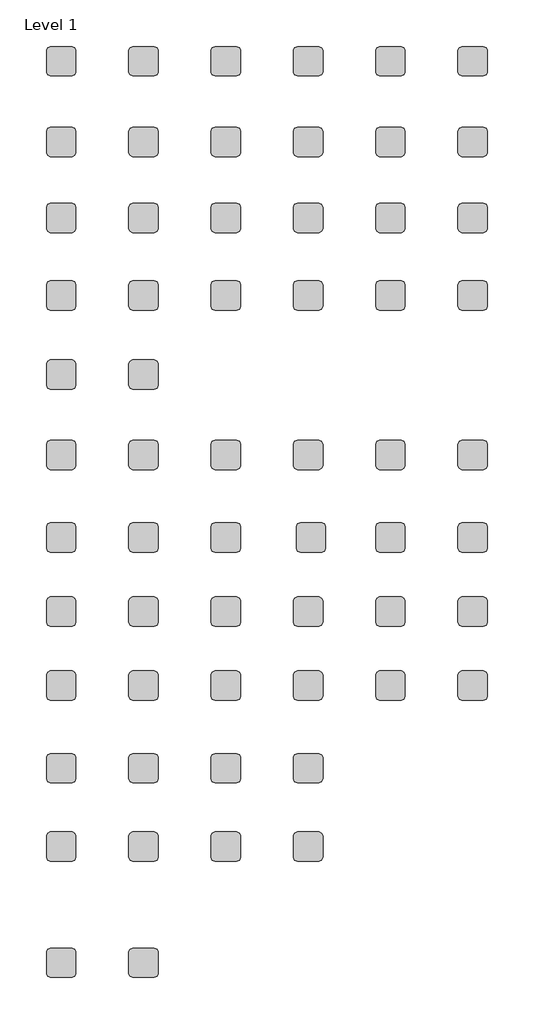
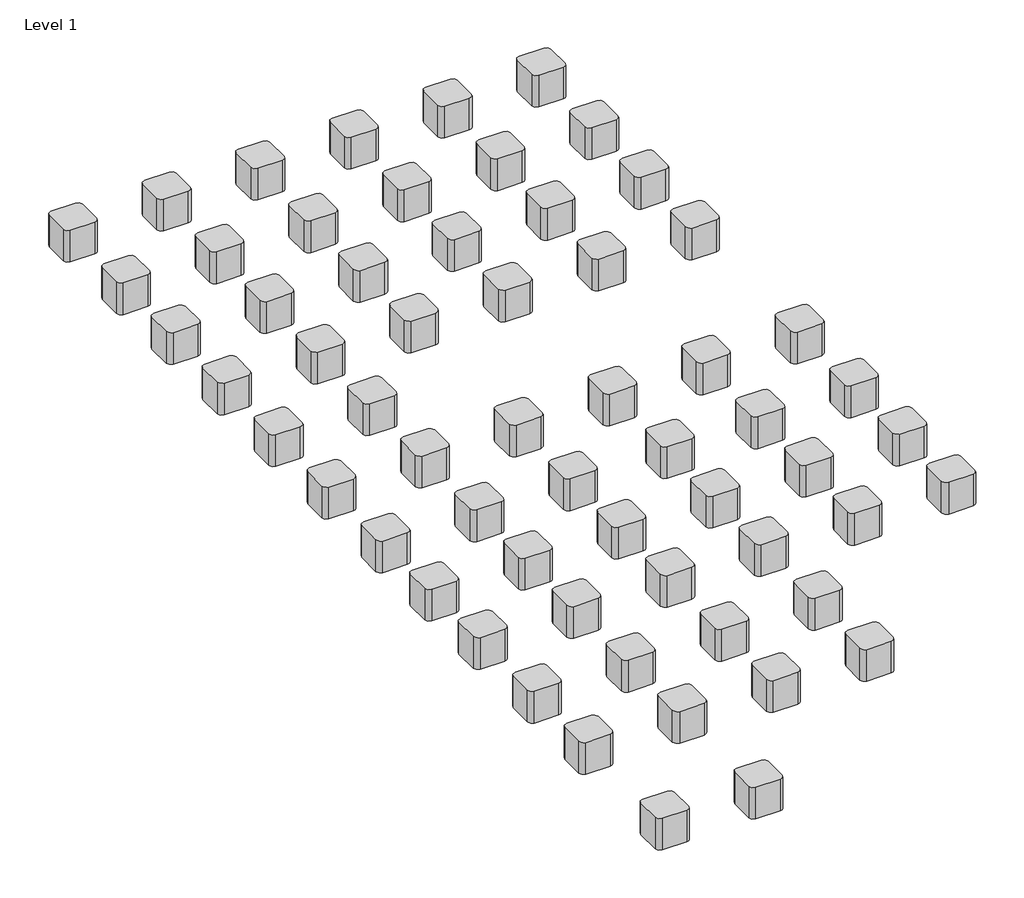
# One storey: 60 proxies.
"""IFC4 building model written with IfcOpenShell, lengths in millimetres."""

from ifc_helpers import new_model, si_unit, origin, place, context, project, spatial, transform, mapped, element, save
from components import material_cube_material_cube_d003602f

model = new_model("IFC4")

# Units and contexts
model_context = context("Model", 3, world=origin())
ifc_project = project(units=[si_unit("LENGTHUNIT", "METRE", prefix="MILLI")], contexts=[model_context])

# Site, building, storey
site = spatial("IfcSite", under=ifc_project)
building = spatial("IfcBuilding", under=site)
storey = spatial("IfcBuildingStorey", under=building, Name="Level 1", Elevation=0.0)

# Proxies
placement = place(None, origin())
material_cube_material_cube_shape = material_cube_material_cube_d003602f(model_context)
element("IfcBuildingElementProxy", 1, Name="Material Cube : Material Cube", ObjectType="Material Cube : Material Cube", at=placement, inside=storey, context=model_context, shape_type="MappedRepresentation", body=[
    mapped(material_cube_material_cube_shape, transform((-13627.1706411, 7005.4918403, 0.0), x_axis=(1.0, 0.0, 0.0), y_axis=(0.0, 1.0, 0.0), z_axis=(0.0, 0.0, 1.0))),
])
element("IfcBuildingElementProxy", 2, Name="Material Cube : Material Cube", ObjectType="Material Cube : Material Cube", at=placement, inside=storey, context=model_context, shape_type="MappedRepresentation", body=[
    mapped(material_cube_material_cube_shape, transform((-12558.7416718, 7005.4918403, 0.0), x_axis=(1.0, 0.0, 0.0), y_axis=(0.0, 1.0, 0.0), z_axis=(0.0, 0.0, 1.0))),
])
element("IfcBuildingElementProxy", 3, Name="Material Cube : Material Cube", ObjectType="Material Cube : Material Cube", at=placement, inside=storey, context=model_context, shape_type="MappedRepresentation", body=[
    mapped(material_cube_material_cube_shape, transform((-11490.3127025, 7005.4918403, 0.0), x_axis=(1.0, 0.0, 0.0), y_axis=(0.0, 1.0, 0.0), z_axis=(0.0, 0.0, 1.0))),
])
element("IfcBuildingElementProxy", 4, Name="Material Cube : Material Cube", ObjectType="Material Cube : Material Cube", at=placement, inside=storey, context=model_context, shape_type="MappedRepresentation", body=[
    mapped(material_cube_material_cube_shape, transform((-10421.8837331, 7005.4918403, 0.0), x_axis=(1.0, 0.0, 0.0), y_axis=(0.0, 1.0, 0.0), z_axis=(0.0, 0.0, 1.0))),
])
element("IfcBuildingElementProxy", 5, Name="Material Cube : Material Cube", ObjectType="Material Cube : Material Cube", at=placement, inside=storey, context=model_context, shape_type="MappedRepresentation", body=[
    mapped(material_cube_material_cube_shape, transform((-9353.4547638, 7005.4918403, 0.0), x_axis=(1.0, 0.0, 0.0), y_axis=(0.0, 1.0, 0.0), z_axis=(0.0, 0.0, 1.0))),
])
element("IfcBuildingElementProxy", 6, Name="Material Cube : Material Cube", ObjectType="Material Cube : Material Cube", at=placement, inside=storey, context=model_context, shape_type="MappedRepresentation", body=[
    mapped(material_cube_material_cube_shape, transform((-8285.0257944, 7005.4918403, 0.0), x_axis=(1.0, 0.0, 0.0), y_axis=(0.0, 1.0, 0.0), z_axis=(0.0, 0.0, 1.0))),
])
element("IfcBuildingElementProxy", 7, Name="Material Cube : Material Cube", ObjectType="Material Cube : Material Cube", at=placement, inside=storey, context=model_context, shape_type="MappedRepresentation", body=[
    mapped(material_cube_material_cube_shape, transform((-13627.1706411, 4973.4918403, 0.0), x_axis=(1.0, 0.0, 0.0), y_axis=(0.0, 1.0, 0.0), z_axis=(0.0, 0.0, 1.0))),
])
element("IfcBuildingElementProxy", 8, Name="Material Cube : Material Cube", ObjectType="Material Cube : Material Cube", at=placement, inside=storey, context=model_context, shape_type="MappedRepresentation", body=[
    mapped(material_cube_material_cube_shape, transform((-12558.7416718, 4973.4918403, 0.0), x_axis=(1.0, 0.0, 0.0), y_axis=(0.0, 1.0, 0.0), z_axis=(0.0, 0.0, 1.0))),
])
element("IfcBuildingElementProxy", 9, Name="Material Cube : Material Cube", ObjectType="Material Cube : Material Cube", at=placement, inside=storey, context=model_context, shape_type="MappedRepresentation", body=[
    mapped(material_cube_material_cube_shape, transform((-11490.3127025, 4973.4918403, 0.0), x_axis=(1.0, 0.0, 0.0), y_axis=(0.0, 1.0, 0.0), z_axis=(0.0, 0.0, 1.0))),
])
element("IfcBuildingElementProxy", 10, Name="Material Cube : Material Cube", ObjectType="Material Cube : Material Cube", at=placement, inside=storey, context=model_context, shape_type="MappedRepresentation", body=[
    mapped(material_cube_material_cube_shape, transform((-10421.8837331, 4973.4918403, 0.0), x_axis=(1.0, 0.0, 0.0), y_axis=(0.0, 1.0, 0.0), z_axis=(0.0, 0.0, 1.0))),
])
element("IfcBuildingElementProxy", 11, Name="Material Cube : Material Cube", ObjectType="Material Cube : Material Cube", at=placement, inside=storey, context=model_context, shape_type="MappedRepresentation", body=[
    mapped(material_cube_material_cube_shape, transform((-9353.4547638, 4973.4918403, 0.0), x_axis=(1.0, 0.0, 0.0), y_axis=(0.0, 1.0, 0.0), z_axis=(0.0, 0.0, 1.0))),
])
element("IfcBuildingElementProxy", 12, Name="Material Cube : Material Cube", ObjectType="Material Cube : Material Cube", at=placement, inside=storey, context=model_context, shape_type="MappedRepresentation", body=[
    mapped(material_cube_material_cube_shape, transform((-8285.0257944, 4973.4918403, 0.0), x_axis=(1.0, 0.0, 0.0), y_axis=(0.0, 1.0, 0.0), z_axis=(0.0, 0.0, 1.0))),
])
element("IfcBuildingElementProxy", 13, Name="Material Cube : Material Cube", ObjectType="Material Cube : Material Cube", at=placement, inside=storey, context=model_context, shape_type="MappedRepresentation", body=[
    mapped(material_cube_material_cube_shape, transform((-13627.1706411, 1900.0918403, 0.0), x_axis=(1.0, 0.0, 0.0), y_axis=(0.0, 1.0, 0.0), z_axis=(0.0, 0.0, 1.0))),
])
element("IfcBuildingElementProxy", 14, Name="Material Cube : Material Cube", ObjectType="Material Cube : Material Cube", at=placement, inside=storey, context=model_context, shape_type="MappedRepresentation", body=[
    mapped(material_cube_material_cube_shape, transform((-12558.7416718, 1900.0918403, 0.0), x_axis=(1.0, 0.0, 0.0), y_axis=(0.0, 1.0, 0.0), z_axis=(0.0, 0.0, 1.0))),
])
element("IfcBuildingElementProxy", 15, Name="Material Cube : Material Cube", ObjectType="Material Cube : Material Cube", at=placement, inside=storey, context=model_context, shape_type="MappedRepresentation", body=[
    mapped(material_cube_material_cube_shape, transform((-11490.3127025, 1900.0918403, 0.0), x_axis=(1.0, 0.0, 0.0), y_axis=(0.0, 1.0, 0.0), z_axis=(0.0, 0.0, 1.0))),
])
element("IfcBuildingElementProxy", 16, Name="Material Cube : Material Cube", ObjectType="Material Cube : Material Cube", at=placement, inside=storey, context=model_context, shape_type="MappedRepresentation", body=[
    mapped(material_cube_material_cube_shape, transform((-10421.8837331, 1900.0918403, 0.0), x_axis=(1.0, 0.0, 0.0), y_axis=(0.0, 1.0, 0.0), z_axis=(0.0, 0.0, 1.0))),
])
element("IfcBuildingElementProxy", 17, Name="Material Cube : Material Cube", ObjectType="Material Cube : Material Cube", at=placement, inside=storey, context=model_context, shape_type="MappedRepresentation", body=[
    mapped(material_cube_material_cube_shape, transform((-9353.4547638, 1900.0918403, 0.0), x_axis=(1.0, 0.0, 0.0), y_axis=(0.0, 1.0, 0.0), z_axis=(0.0, 0.0, 1.0))),
])
element("IfcBuildingElementProxy", 18, Name="Material Cube : Material Cube", ObjectType="Material Cube : Material Cube", at=placement, inside=storey, context=model_context, shape_type="MappedRepresentation", body=[
    mapped(material_cube_material_cube_shape, transform((-8285.0257944, 1900.0918403, 0.0), x_axis=(1.0, 0.0, 0.0), y_axis=(0.0, 1.0, 0.0), z_axis=(0.0, 0.0, 1.0))),
])
element("IfcBuildingElementProxy", 19, Name="Material Cube : Material Cube", ObjectType="Material Cube : Material Cube", at=placement, inside=storey, context=model_context, shape_type="MappedRepresentation", body=[
    mapped(material_cube_material_cube_shape, transform((-13627.1706411, -131.9081597, 0.0), x_axis=(1.0, 0.0, 0.0), y_axis=(0.0, 1.0, 0.0), z_axis=(0.0, 0.0, 1.0))),
])
element("IfcBuildingElementProxy", 20, Name="Material Cube : Material Cube", ObjectType="Material Cube : Material Cube", at=placement, inside=storey, context=model_context, shape_type="MappedRepresentation", body=[
    mapped(material_cube_material_cube_shape, transform((-11490.3127025, -131.9081597, 0.0), x_axis=(1.0, 0.0, 0.0), y_axis=(0.0, 1.0, 0.0), z_axis=(0.0, 0.0, 1.0))),
])
element("IfcBuildingElementProxy", 21, Name="Material Cube : Material Cube", ObjectType="Material Cube : Material Cube", at=placement, inside=storey, context=model_context, shape_type="MappedRepresentation", body=[
    mapped(material_cube_material_cube_shape, transform((-12558.7416718, -131.9081597, 0.0), x_axis=(1.0, 0.0, 0.0), y_axis=(0.0, 1.0, 0.0), z_axis=(0.0, 0.0, 1.0))),
])
element("IfcBuildingElementProxy", 22, Name="Material Cube : Material Cube", ObjectType="Material Cube : Material Cube", at=placement, inside=storey, context=model_context, shape_type="MappedRepresentation", body=[
    mapped(material_cube_material_cube_shape, transform((-10421.8837331, -131.9081597, 0.0), x_axis=(1.0, 0.0, 0.0), y_axis=(0.0, 1.0, 0.0), z_axis=(0.0, 0.0, 1.0))),
])
element("IfcBuildingElementProxy", 23, Name="Material Cube : Material Cube", ObjectType="Material Cube : Material Cube", at=placement, inside=storey, context=model_context, shape_type="MappedRepresentation", body=[
    mapped(material_cube_material_cube_shape, transform((-9353.4547638, -131.9081597, 0.0), x_axis=(1.0, 0.0, 0.0), y_axis=(0.0, 1.0, 0.0), z_axis=(0.0, 0.0, 1.0))),
])
element("IfcBuildingElementProxy", 24, Name="Material Cube : Material Cube", ObjectType="Material Cube : Material Cube", at=placement, inside=storey, context=model_context, shape_type="MappedRepresentation", body=[
    mapped(material_cube_material_cube_shape, transform((-8285.0257944, -131.9081597, 0.0), x_axis=(1.0, 0.0, 0.0), y_axis=(0.0, 1.0, 0.0), z_axis=(0.0, 0.0, 1.0))),
])
element("IfcBuildingElementProxy", 25, Name="Material Cube : Material Cube", ObjectType="Material Cube : Material Cube", at=placement, inside=storey, context=model_context, shape_type="MappedRepresentation", body=[
    mapped(material_cube_material_cube_shape, transform((-13627.1706411, 2941.4918403, 0.0), x_axis=(1.0, 0.0, 0.0), y_axis=(0.0, 1.0, 0.0), z_axis=(0.0, 0.0, 1.0))),
])
element("IfcBuildingElementProxy", 26, Name="Material Cube : Material Cube", ObjectType="Material Cube : Material Cube", at=placement, inside=storey, context=model_context, shape_type="MappedRepresentation", body=[
    mapped(material_cube_material_cube_shape, transform((-12558.7416718, 2941.4918403, 0.0), x_axis=(1.0, 0.0, 0.0), y_axis=(0.0, 1.0, 0.0), z_axis=(0.0, 0.0, 1.0))),
])
element("IfcBuildingElementProxy", 27, Name="Material Cube : Material Cube", ObjectType="Material Cube : Material Cube", at=placement, inside=storey, context=model_context, shape_type="MappedRepresentation", body=[
    mapped(material_cube_material_cube_shape, transform((-13627.1706411, -2163.9081597, 0.0), x_axis=(1.0, 0.0, 0.0), y_axis=(0.0, 1.0, 0.0), z_axis=(0.0, 0.0, 1.0))),
])
element("IfcBuildingElementProxy", 28, Name="Material Cube : Material Cube", ObjectType="Material Cube : Material Cube", at=placement, inside=storey, context=model_context, shape_type="MappedRepresentation", body=[
    mapped(material_cube_material_cube_shape, transform((-12558.7416718, -2163.9081597, 0.0), x_axis=(1.0, 0.0, 0.0), y_axis=(0.0, 1.0, 0.0), z_axis=(0.0, 0.0, 1.0))),
])
element("IfcBuildingElementProxy", 29, Name="Material Cube : Material Cube", ObjectType="Material Cube : Material Cube", at=placement, inside=storey, context=model_context, shape_type="MappedRepresentation", body=[
    mapped(material_cube_material_cube_shape, transform((-11490.3127025, -2163.9081597, 0.0), x_axis=(1.0, 0.0, 0.0), y_axis=(0.0, 1.0, 0.0), z_axis=(0.0, 0.0, 1.0))),
])
element("IfcBuildingElementProxy", 30, Name="Material Cube : Material Cube", ObjectType="Material Cube : Material Cube", at=placement, inside=storey, context=model_context, shape_type="MappedRepresentation", body=[
    mapped(material_cube_material_cube_shape, transform((-10421.8837331, -2163.9081597, 0.0), x_axis=(1.0, 0.0, 0.0), y_axis=(0.0, 1.0, 0.0), z_axis=(0.0, 0.0, 1.0))),
])
element("IfcBuildingElementProxy", 31, Name="Material Cube : Material Cube", ObjectType="Material Cube : Material Cube", at=placement, inside=storey, context=model_context, shape_type="MappedRepresentation", body=[
    mapped(material_cube_material_cube_shape, transform((-13627.1706411, -3179.9081597, 0.0), x_axis=(1.0, 0.0, 0.0), y_axis=(0.0, 1.0, 0.0), z_axis=(0.0, 0.0, 1.0))),
])
element("IfcBuildingElementProxy", 32, Name="Material Cube : Material Cube", ObjectType="Material Cube : Material Cube", at=placement, inside=storey, context=model_context, shape_type="MappedRepresentation", body=[
    mapped(material_cube_material_cube_shape, transform((-12558.7416718, -3179.9081597, 0.0), x_axis=(1.0, 0.0, 0.0), y_axis=(0.0, 1.0, 0.0), z_axis=(0.0, 0.0, 1.0))),
])
element("IfcBuildingElementProxy", 33, Name="Material Cube : Material Cube", ObjectType="Material Cube : Material Cube", at=placement, inside=storey, context=model_context, shape_type="MappedRepresentation", body=[
    mapped(material_cube_material_cube_shape, transform((-11490.3127025, -3179.9081597, 0.0), x_axis=(1.0, 0.0, 0.0), y_axis=(0.0, 1.0, 0.0), z_axis=(0.0, 0.0, 1.0))),
])
element("IfcBuildingElementProxy", 34, Name="Material Cube : Material Cube", ObjectType="Material Cube : Material Cube", at=placement, inside=storey, context=model_context, shape_type="MappedRepresentation", body=[
    mapped(material_cube_material_cube_shape, transform((-10421.8837331, -3179.9081597, 0.0), x_axis=(1.0, 0.0, 0.0), y_axis=(0.0, 1.0, 0.0), z_axis=(0.0, 0.0, 1.0))),
])
element("IfcBuildingElementProxy", 35, Name="Material Cube : Material Cube", ObjectType="Material Cube : Material Cube", at=placement, inside=storey, context=model_context, shape_type="MappedRepresentation", body=[
    mapped(material_cube_material_cube_shape, transform((-13627.1706411, 828.3582102, 0.0), x_axis=(1.0, 0.0, 0.0), y_axis=(0.0, 1.0, 0.0), z_axis=(0.0, 0.0, 1.0))),
])
element("IfcBuildingElementProxy", 36, Name="Material Cube : Material Cube", ObjectType="Material Cube : Material Cube", at=placement, inside=storey, context=model_context, shape_type="MappedRepresentation", body=[
    mapped(material_cube_material_cube_shape, transform((-12558.7416718, 828.3582102, 0.0), x_axis=(1.0, 0.0, 0.0), y_axis=(0.0, 1.0, 0.0), z_axis=(0.0, 0.0, 1.0))),
])
element("IfcBuildingElementProxy", 37, Name="Material Cube : Material Cube", ObjectType="Material Cube : Material Cube", at=placement, inside=storey, context=model_context, shape_type="MappedRepresentation", body=[
    mapped(material_cube_material_cube_shape, transform((-11490.3127025, 828.3582102, 0.0), x_axis=(1.0, 0.0, 0.0), y_axis=(0.0, 1.0, 0.0), z_axis=(0.0, 0.0, 1.0))),
])
element("IfcBuildingElementProxy", 38, Name="Material Cube : Material Cube", ObjectType="Material Cube : Material Cube", at=placement, inside=storey, context=model_context, shape_type="MappedRepresentation", body=[
    mapped(material_cube_material_cube_shape, transform((-10384.1043899, 828.3582102, 0.0), x_axis=(1.0, 0.0, 0.0), y_axis=(0.0, 1.0, 0.0), z_axis=(0.0, 0.0, 1.0))),
])
element("IfcBuildingElementProxy", 39, Name="Material Cube : Material Cube", ObjectType="Material Cube : Material Cube", at=placement, inside=storey, context=model_context, shape_type="MappedRepresentation", body=[
    mapped(material_cube_material_cube_shape, transform((-9353.4547638, 828.3582102, 0.0), x_axis=(1.0, 0.0, 0.0), y_axis=(0.0, 1.0, 0.0), z_axis=(0.0, 0.0, 1.0))),
])
element("IfcBuildingElementProxy", 40, Name="Material Cube : Material Cube", ObjectType="Material Cube : Material Cube", at=placement, inside=storey, context=model_context, shape_type="MappedRepresentation", body=[
    mapped(material_cube_material_cube_shape, transform((-13627.1706411, -1091.8963945, 0.0), x_axis=(1.0, 0.0, 0.0), y_axis=(0.0, 1.0, 0.0), z_axis=(0.0, 0.0, 1.0))),
])
element("IfcBuildingElementProxy", 41, Name="Material Cube : Material Cube", ObjectType="Material Cube : Material Cube", at=placement, inside=storey, context=model_context, shape_type="MappedRepresentation", body=[
    mapped(material_cube_material_cube_shape, transform((-8285.0257944, 828.3582102, 0.0), x_axis=(1.0, 0.0, 0.0), y_axis=(0.0, 1.0, 0.0), z_axis=(0.0, 0.0, 1.0))),
])
element("IfcBuildingElementProxy", 42, Name="Material Cube : Material Cube", ObjectType="Material Cube : Material Cube", at=placement, inside=storey, context=model_context, shape_type="MappedRepresentation", body=[
    mapped(material_cube_material_cube_shape, transform((-12558.7416718, -1091.8963945, 0.0), x_axis=(1.0, 0.0, 0.0), y_axis=(0.0, 1.0, 0.0), z_axis=(0.0, 0.0, 1.0))),
])
element("IfcBuildingElementProxy", 43, Name="Material Cube : Material Cube", ObjectType="Material Cube : Material Cube", at=placement, inside=storey, context=model_context, shape_type="MappedRepresentation", body=[
    mapped(material_cube_material_cube_shape, transform((-11490.3127025, -1091.8963945, 0.0), x_axis=(1.0, 0.0, 0.0), y_axis=(0.0, 1.0, 0.0), z_axis=(0.0, 0.0, 1.0))),
])
element("IfcBuildingElementProxy", 44, Name="Material Cube : Material Cube", ObjectType="Material Cube : Material Cube", at=placement, inside=storey, context=model_context, shape_type="MappedRepresentation", body=[
    mapped(material_cube_material_cube_shape, transform((-10421.8837331, -1091.8963945, 0.0), x_axis=(1.0, 0.0, 0.0), y_axis=(0.0, 1.0, 0.0), z_axis=(0.0, 0.0, 1.0))),
])
element("IfcBuildingElementProxy", 45, Name="Material Cube : Material Cube", ObjectType="Material Cube : Material Cube", at=placement, inside=storey, context=model_context, shape_type="MappedRepresentation", body=[
    mapped(material_cube_material_cube_shape, transform((-9353.4547638, -1091.8963945, 0.0), x_axis=(1.0, 0.0, 0.0), y_axis=(0.0, 1.0, 0.0), z_axis=(0.0, 0.0, 1.0))),
])
element("IfcBuildingElementProxy", 46, Name="Material Cube : Material Cube", ObjectType="Material Cube : Material Cube", at=placement, inside=storey, context=model_context, shape_type="MappedRepresentation", body=[
    mapped(material_cube_material_cube_shape, transform((-8285.0257944, -1091.8963945, 0.0), x_axis=(1.0, 0.0, 0.0), y_axis=(0.0, 1.0, 0.0), z_axis=(0.0, 0.0, 1.0))),
])
element("IfcBuildingElementProxy", 47, Name="Material Cube : Material Cube", ObjectType="Material Cube : Material Cube", at=placement, inside=storey, context=model_context, shape_type="MappedRepresentation", body=[
    mapped(material_cube_material_cube_shape, transform((-13627.1706411, 5959.5844979, 0.0), x_axis=(1.0, 0.0, 0.0), y_axis=(0.0, 1.0, 0.0), z_axis=(0.0, 0.0, 1.0))),
])
element("IfcBuildingElementProxy", 48, Name="Material Cube : Material Cube", ObjectType="Material Cube : Material Cube", at=placement, inside=storey, context=model_context, shape_type="MappedRepresentation", body=[
    mapped(material_cube_material_cube_shape, transform((-12558.7416718, 5959.5844979, 0.0), x_axis=(1.0, 0.0, 0.0), y_axis=(0.0, 1.0, 0.0), z_axis=(0.0, 0.0, 1.0))),
])
element("IfcBuildingElementProxy", 49, Name="Material Cube : Material Cube", ObjectType="Material Cube : Material Cube", at=placement, inside=storey, context=model_context, shape_type="MappedRepresentation", body=[
    mapped(material_cube_material_cube_shape, transform((-11490.3127025, 5959.5844979, 0.0), x_axis=(1.0, 0.0, 0.0), y_axis=(0.0, 1.0, 0.0), z_axis=(0.0, 0.0, 1.0))),
])
element("IfcBuildingElementProxy", 50, Name="Material Cube : Material Cube", ObjectType="Material Cube : Material Cube", at=placement, inside=storey, context=model_context, shape_type="MappedRepresentation", body=[
    mapped(material_cube_material_cube_shape, transform((-10421.8837331, 5959.5844979, 0.0), x_axis=(1.0, 0.0, 0.0), y_axis=(0.0, 1.0, 0.0), z_axis=(0.0, 0.0, 1.0))),
])
element("IfcBuildingElementProxy", 51, Name="Material Cube : Material Cube", ObjectType="Material Cube : Material Cube", at=placement, inside=storey, context=model_context, shape_type="MappedRepresentation", body=[
    mapped(material_cube_material_cube_shape, transform((-9353.4547638, 5959.5844979, 0.0), x_axis=(1.0, 0.0, 0.0), y_axis=(0.0, 1.0, 0.0), z_axis=(0.0, 0.0, 1.0))),
])
element("IfcBuildingElementProxy", 52, Name="Material Cube : Material Cube", ObjectType="Material Cube : Material Cube", at=placement, inside=storey, context=model_context, shape_type="MappedRepresentation", body=[
    mapped(material_cube_material_cube_shape, transform((-8285.0257944, 5959.5844979, 0.0), x_axis=(1.0, 0.0, 0.0), y_axis=(0.0, 1.0, 0.0), z_axis=(0.0, 0.0, 1.0))),
])
element("IfcBuildingElementProxy", 53, Name="Material Cube : Material Cube", ObjectType="Material Cube : Material Cube", at=placement, inside=storey, context=model_context, shape_type="MappedRepresentation", body=[
    mapped(material_cube_material_cube_shape, transform((-13627.1706411, 3967.1717626, 0.0), x_axis=(1.0, 0.0, 0.0), y_axis=(0.0, 1.0, 0.0), z_axis=(0.0, 0.0, 1.0))),
])
element("IfcBuildingElementProxy", 54, Name="Material Cube : Material Cube", ObjectType="Material Cube : Material Cube", at=placement, inside=storey, context=model_context, shape_type="MappedRepresentation", body=[
    mapped(material_cube_material_cube_shape, transform((-12558.7416718, 3967.1717626, 0.0), x_axis=(1.0, 0.0, 0.0), y_axis=(0.0, 1.0, 0.0), z_axis=(0.0, 0.0, 1.0))),
])
element("IfcBuildingElementProxy", 55, Name="Material Cube : Material Cube", ObjectType="Material Cube : Material Cube", at=placement, inside=storey, context=model_context, shape_type="MappedRepresentation", body=[
    mapped(material_cube_material_cube_shape, transform((-11490.3127025, 3967.1717626, 0.0), x_axis=(1.0, 0.0, 0.0), y_axis=(0.0, 1.0, 0.0), z_axis=(0.0, 0.0, 1.0))),
])
element("IfcBuildingElementProxy", 56, Name="Material Cube : Material Cube", ObjectType="Material Cube : Material Cube", at=placement, inside=storey, context=model_context, shape_type="MappedRepresentation", body=[
    mapped(material_cube_material_cube_shape, transform((-10421.8837331, 3967.1717626, 0.0), x_axis=(1.0, 0.0, 0.0), y_axis=(0.0, 1.0, 0.0), z_axis=(0.0, 0.0, 1.0))),
])
element("IfcBuildingElementProxy", 57, Name="Material Cube : Material Cube", ObjectType="Material Cube : Material Cube", at=placement, inside=storey, context=model_context, shape_type="MappedRepresentation", body=[
    mapped(material_cube_material_cube_shape, transform((-9353.4547638, 3967.1717626, 0.0), x_axis=(1.0, 0.0, 0.0), y_axis=(0.0, 1.0, 0.0), z_axis=(0.0, 0.0, 1.0))),
])
element("IfcBuildingElementProxy", 58, Name="Material Cube : Material Cube", ObjectType="Material Cube : Material Cube", at=placement, inside=storey, context=model_context, shape_type="MappedRepresentation", body=[
    mapped(material_cube_material_cube_shape, transform((-8285.0257944, 3967.1717626, 0.0), x_axis=(1.0, 0.0, 0.0), y_axis=(0.0, 1.0, 0.0), z_axis=(0.0, 0.0, 1.0))),
])
element("IfcBuildingElementProxy", 59, Name="Material Cube : Material Cube", ObjectType="Material Cube : Material Cube", at=placement, inside=storey, context=model_context, shape_type="MappedRepresentation", body=[
    mapped(material_cube_material_cube_shape, transform((-13627.1706411, -4686.9806329, 0.0), x_axis=(1.0, 0.0, 0.0), y_axis=(0.0, 1.0, 0.0), z_axis=(0.0, 0.0, 1.0))),
])
element("IfcBuildingElementProxy", 60, Name="Material Cube : Material Cube", ObjectType="Material Cube : Material Cube", at=placement, inside=storey, context=model_context, shape_type="MappedRepresentation", body=[
    mapped(material_cube_material_cube_shape, transform((-12558.7416718, -4686.9806329, 0.0), x_axis=(1.0, 0.0, 0.0), y_axis=(0.0, 1.0, 0.0), z_axis=(0.0, 0.0, 1.0))),
])

save(model, "model.ifc")
